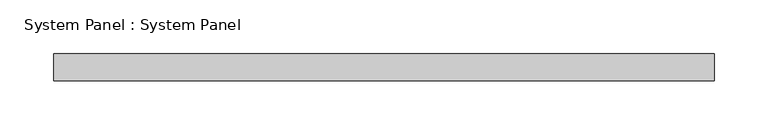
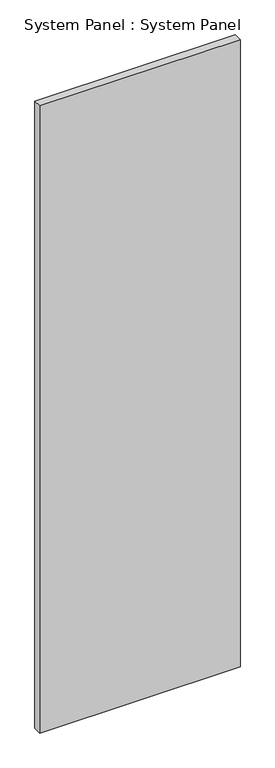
"""IFC4 building model written with IfcOpenShell, lengths in millimetres: plate geometry, System Panel : System Panel."""

from ifc_helpers import new_model, si_unit, origin, origin_with_axes, place, context, project, spatial, polyline, outline, extrude, source, transform, mapped, element, save


def system_panel_system_panel_14be3267(model_context):
    return source(origin(), model_context, "Body", "SweptSolid", [
        extrude(outline(polyline([(307.975, 19.05), (-307.975, 19.05), (-307.975, 44.45), (307.975, 44.45), (307.975, 19.05)])), origin_with_axes(), (0.0, 0.0, 1.0), 2038.35),
    ])


if __name__ == "__main__":
    model = new_model("IFC4")
    model_context = context("Model", 3, world=origin())
    ifc_project = project(units=[si_unit("LENGTHUNIT", "METRE", prefix="MILLI")], contexts=[model_context])
    site = spatial("IfcSite", under=ifc_project)
    building = spatial("IfcBuilding", under=site)
    placement = place(None, origin())
    system_panel_system_panel_shape = system_panel_system_panel_14be3267(model_context)
    element("IfcPlate", 1, ObjectType="System Panel : System Panel", at=placement, inside=building, context=model_context, shape_type="MappedRepresentation", body=[
        mapped(system_panel_system_panel_shape, transform((0.0, 0.0, 0.0), x_axis=(1.0, 0.0, 0.0), y_axis=(0.0, 1.0, 0.0), z_axis=(0.0, 0.0, 1.0))),
    ])
    save(model, "model.ifc")
